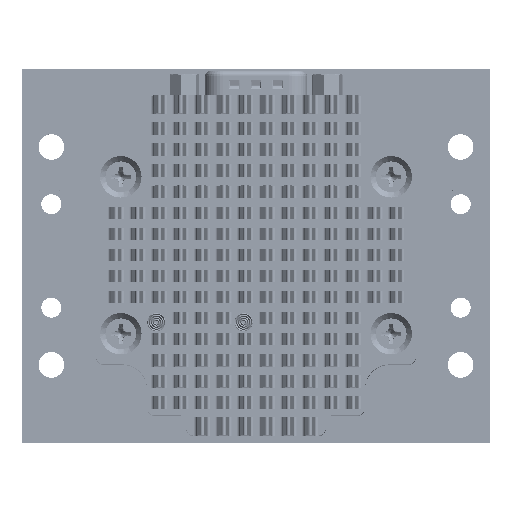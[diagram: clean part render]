
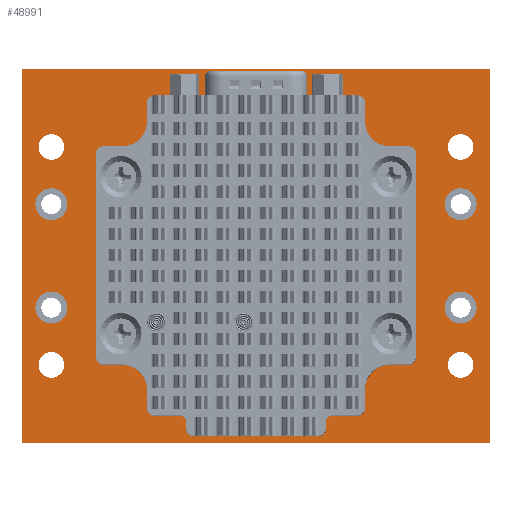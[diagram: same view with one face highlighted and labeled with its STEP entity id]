
A CAD part, top view. The second image highlights one B-rep face of the part: STEP entity #48991.
In plain terms, the highlighted planar face has unit normal (0, 0, 1).
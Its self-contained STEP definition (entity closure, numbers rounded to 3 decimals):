
#3077=VECTOR('',#56774,1.);
#3081=VECTOR('',#56779,1.);
#3084=VECTOR('',#56783,1.);
#3087=VECTOR('',#56787,1.);
#6145=LINE('',#67959,#3077);
#6149=LINE('',#67968,#3081);
#6152=LINE('',#67974,#3084);
#6155=LINE('',#67980,#3087);
#9221=PLANE('',#52153);
#10129=VERTEX_POINT('',#67878);
#10131=VERTEX_POINT('',#67883);
#10133=VERTEX_POINT('',#67888);
#10135=VERTEX_POINT('',#67893);
#10137=VERTEX_POINT('',#67898);
#10141=VERTEX_POINT('',#67909);
#10145=VERTEX_POINT('',#67920);
#10149=VERTEX_POINT('',#67931);
#10153=VERTEX_POINT('',#67942);
#10155=VERTEX_POINT('',#67947);
#10157=VERTEX_POINT('',#67952);
#10159=VERTEX_POINT('',#67957);
#10160=VERTEX_POINT('',#67960);
#10161=VERTEX_POINT('',#67961);
#10164=VERTEX_POINT('',#67969);
#10166=VERTEX_POINT('',#67975);
#15334=CIRCLE('',#52099,0.108);
#15336=CIRCLE('',#52102,0.108);
#15338=CIRCLE('',#52105,0.108);
#15340=CIRCLE('',#52108,0.108);
#15342=CIRCLE('',#52111,0.279);
#15346=CIRCLE('',#52118,0.279);
#15350=CIRCLE('',#52125,0.279);
#15354=CIRCLE('',#52132,0.279);
#15358=CIRCLE('',#52139,0.225);
#15360=CIRCLE('',#52142,0.225);
#15362=CIRCLE('',#52145,0.225);
#15364=CIRCLE('',#52148,0.225);
#17946=EDGE_CURVE('',#10129,#10129,#15334,.T.);
#17948=EDGE_CURVE('',#10131,#10131,#15336,.T.);
#17950=EDGE_CURVE('',#10133,#10133,#15338,.T.);
#17952=EDGE_CURVE('',#10135,#10135,#15340,.T.);
#17954=EDGE_CURVE('',#10137,#10137,#15342,.T.);
#17958=EDGE_CURVE('',#10141,#10141,#15346,.T.);
#17962=EDGE_CURVE('',#10145,#10145,#15350,.T.);
#17966=EDGE_CURVE('',#10149,#10149,#15354,.T.);
#17970=EDGE_CURVE('',#10153,#10153,#15358,.T.);
#17972=EDGE_CURVE('',#10155,#10155,#15360,.T.);
#17974=EDGE_CURVE('',#10157,#10157,#15362,.T.);
#17976=EDGE_CURVE('',#10159,#10159,#15364,.T.);
#17977=EDGE_CURVE('',#10160,#10161,#6145,.T.);
#17981=EDGE_CURVE('',#10161,#10164,#6149,.T.);
#17984=EDGE_CURVE('',#10164,#10166,#6152,.T.);
#17987=EDGE_CURVE('',#10166,#10160,#6155,.T.);
#25913=ORIENTED_EDGE('',*,*,#17946,.T.);
#25914=ORIENTED_EDGE('',*,*,#17948,.T.);
#25915=ORIENTED_EDGE('',*,*,#17950,.T.);
#25916=ORIENTED_EDGE('',*,*,#17952,.T.);
#25917=ORIENTED_EDGE('',*,*,#17954,.T.);
#25918=ORIENTED_EDGE('',*,*,#17958,.T.);
#25919=ORIENTED_EDGE('',*,*,#17962,.T.);
#25920=ORIENTED_EDGE('',*,*,#17966,.T.);
#25921=ORIENTED_EDGE('',*,*,#17970,.T.);
#25922=ORIENTED_EDGE('',*,*,#17972,.T.);
#25923=ORIENTED_EDGE('',*,*,#17974,.T.);
#25924=ORIENTED_EDGE('',*,*,#17976,.T.);
#25925=ORIENTED_EDGE('',*,*,#17977,.F.);
#25926=ORIENTED_EDGE('',*,*,#17987,.F.);
#25927=ORIENTED_EDGE('',*,*,#17984,.F.);
#25928=ORIENTED_EDGE('',*,*,#17981,.F.);
#41725=EDGE_LOOP('',(#25913));
#41726=EDGE_LOOP('',(#25914));
#41727=EDGE_LOOP('',(#25915));
#41728=EDGE_LOOP('',(#25916));
#41729=EDGE_LOOP('',(#25917));
#41730=EDGE_LOOP('',(#25918));
#41731=EDGE_LOOP('',(#25919));
#41732=EDGE_LOOP('',(#25920));
#41733=EDGE_LOOP('',(#25921));
#41734=EDGE_LOOP('',(#25922));
#41735=EDGE_LOOP('',(#25923));
#41736=EDGE_LOOP('',(#25924));
#41737=EDGE_LOOP('',(#25925,#25926,#25927,#25928));
#45368=FACE_BOUND('',#41725,.T.);
#45369=FACE_BOUND('',#41726,.T.);
#45370=FACE_BOUND('',#41727,.T.);
#45371=FACE_BOUND('',#41728,.T.);
#45372=FACE_BOUND('',#41729,.T.);
#45373=FACE_BOUND('',#41730,.T.);
#45374=FACE_BOUND('',#41731,.T.);
#45375=FACE_BOUND('',#41732,.T.);
#45376=FACE_BOUND('',#41733,.T.);
#45377=FACE_BOUND('',#41734,.T.);
#45378=FACE_BOUND('',#41735,.T.);
#45379=FACE_BOUND('',#41736,.T.);
#45380=FACE_BOUND('',#41737,.T.);
#48991=ADVANCED_FACE('',(#45368,#45369,#45370,#45371,#45372,#45373,#45374,
#45375,#45376,#45377,#45378,#45379,#45380),#9221,.T.);
#52099=AXIS2_PLACEMENT_3D('',#67877,#56677,#56678);
#52102=AXIS2_PLACEMENT_3D('',#67882,#56683,#56684);
#52105=AXIS2_PLACEMENT_3D('',#67887,#56689,#56690);
#52108=AXIS2_PLACEMENT_3D('',#67892,#56695,#56696);
#52111=AXIS2_PLACEMENT_3D('',#67897,#56701,#56702);
#52118=AXIS2_PLACEMENT_3D('',#67908,#56714,#56715);
#52125=AXIS2_PLACEMENT_3D('',#67919,#56727,#56728);
#52132=AXIS2_PLACEMENT_3D('',#67930,#56740,#56741);
#52139=AXIS2_PLACEMENT_3D('',#67941,#56753,#56754);
#52142=AXIS2_PLACEMENT_3D('',#67946,#56759,#56760);
#52145=AXIS2_PLACEMENT_3D('',#67951,#56765,#56766);
#52148=AXIS2_PLACEMENT_3D('',#67956,#56771,#56772);
#52153=AXIS2_PLACEMENT_3D('',#67982,#56789,$);
#56677=DIRECTION('',(0.,0.,-1.));
#56678=DIRECTION('',(0.,0.108,0.));
#56683=DIRECTION('',(0.,0.,-1.));
#56684=DIRECTION('',(0.,0.108,0.));
#56689=DIRECTION('',(0.,0.,-1.));
#56690=DIRECTION('',(0.,0.108,0.));
#56695=DIRECTION('',(0.,0.,-1.));
#56696=DIRECTION('',(0.,0.108,0.));
#56701=DIRECTION('',(0.,0.,-1.));
#56702=DIRECTION('',(0.,0.279,0.));
#56714=DIRECTION('',(0.,0.,-1.));
#56715=DIRECTION('',(0.,0.279,0.));
#56727=DIRECTION('',(0.,0.,-1.));
#56728=DIRECTION('',(0.,0.279,0.));
#56740=DIRECTION('',(0.,0.,-1.));
#56741=DIRECTION('',(0.,0.279,0.));
#56753=DIRECTION('',(0.,0.,-1.));
#56754=DIRECTION('',(0.,0.225,0.));
#56759=DIRECTION('',(0.,0.,-1.));
#56760=DIRECTION('',(0.,0.225,0.));
#56765=DIRECTION('',(0.,0.,-1.));
#56766=DIRECTION('',(0.,0.225,0.));
#56771=DIRECTION('',(0.,0.,-1.));
#56772=DIRECTION('',(0.,0.225,0.));
#56774=DIRECTION('',(1.,0.,0.));
#56779=DIRECTION('',(0.,-1.,0.));
#56783=DIRECTION('',(-1.,0.,0.));
#56787=DIRECTION('',(0.,1.,0.));
#56789=DIRECTION('',(0.,0.,1.));
#67877=CARTESIAN_POINT('',(2.362,-1.372,0.572));
#67878=CARTESIAN_POINT('',(2.362,-1.264,0.572));
#67882=CARTESIAN_POINT('',(-2.362,-1.372,0.572));
#67883=CARTESIAN_POINT('',(-2.362,-1.264,0.572));
#67887=CARTESIAN_POINT('',(2.362,1.372,0.572));
#67888=CARTESIAN_POINT('',(2.362,1.479,0.572));
#67892=CARTESIAN_POINT('',(-2.362,1.372,0.572));
#67893=CARTESIAN_POINT('',(-2.362,1.479,0.572));
#67897=CARTESIAN_POINT('',(3.576,-0.902,0.572));
#67898=CARTESIAN_POINT('',(3.576,-0.622,0.572));
#67908=CARTESIAN_POINT('',(-3.576,-0.902,0.572));
#67909=CARTESIAN_POINT('',(-3.576,-0.622,0.572));
#67919=CARTESIAN_POINT('',(3.576,0.904,0.572));
#67920=CARTESIAN_POINT('',(3.576,1.184,0.572));
#67930=CARTESIAN_POINT('',(-3.576,0.904,0.572));
#67931=CARTESIAN_POINT('',(-3.576,1.184,0.572));
#67941=CARTESIAN_POINT('',(3.576,-1.902,0.572));
#67942=CARTESIAN_POINT('',(3.576,-1.678,0.572));
#67946=CARTESIAN_POINT('',(-3.576,-1.902,0.572));
#67947=CARTESIAN_POINT('',(-3.576,-1.678,0.572));
#67951=CARTESIAN_POINT('',(3.576,1.905,0.572));
#67952=CARTESIAN_POINT('',(3.576,2.13,0.572));
#67956=CARTESIAN_POINT('',(-3.576,1.905,0.572));
#67957=CARTESIAN_POINT('',(-3.576,2.13,0.572));
#67959=CARTESIAN_POINT('',(4.089,3.264,0.572));
#67960=CARTESIAN_POINT('',(-4.089,3.264,0.572));
#67961=CARTESIAN_POINT('',(4.089,3.264,0.572));
#67968=CARTESIAN_POINT('',(4.089,-3.264,0.572));
#67969=CARTESIAN_POINT('',(4.089,-3.264,0.572));
#67974=CARTESIAN_POINT('',(-4.089,-3.264,0.572));
#67975=CARTESIAN_POINT('',(-4.089,-3.264,0.572));
#67980=CARTESIAN_POINT('',(-4.089,3.264,0.572));
#67982=CARTESIAN_POINT('',(0.,0.,0.572));
